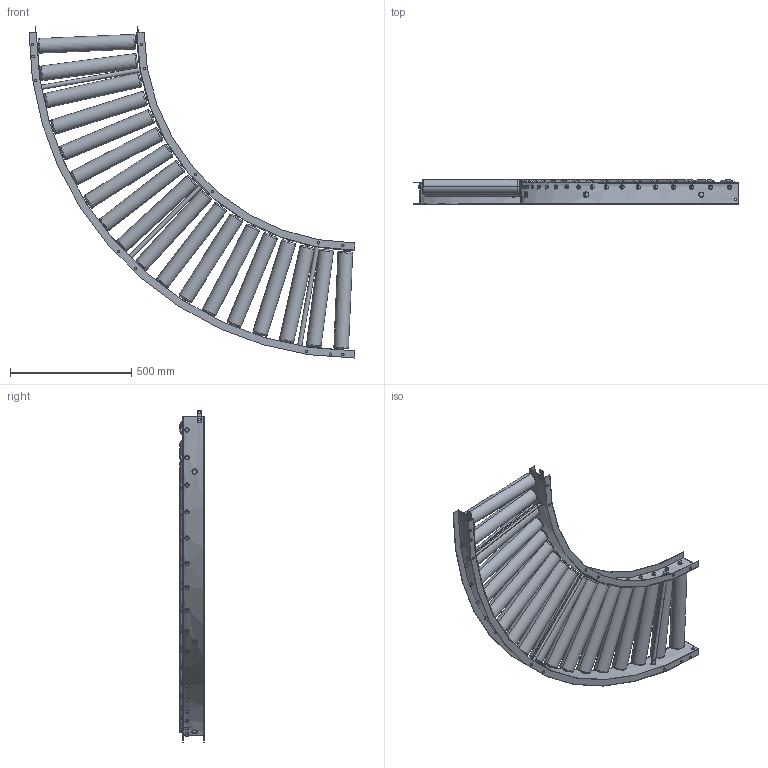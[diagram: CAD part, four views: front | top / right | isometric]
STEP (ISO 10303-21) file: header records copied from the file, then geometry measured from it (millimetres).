
FILE_DESCRIPTION (( 'STEP AP203' ), '1' );
FILE_NAME ('RS-6015J_C.step', '2024-03-15T02:38:35', ( '' ), ( '' ), 'SwSTEP 2.0', 'SolidWorks 2023', '' );
FILE_SCHEMA (( 'CONFIG_CONTROL_DESIGN' ));
Length unit declared in the file: millimetre
Products named in the file (1): RS-6015J_C
Bounding box: 1345 x 101.75 x 1370.08 mm (x, y, z)
Volume: 21957012.7 mm3; surface area: 3196760.5 mm2
Topology: 55 solids, 55 shells, 748 faces, 1680 edges, 1084 vertices
Faces by surface type: cylinder 370, plane 270, torus 72, cone 36
Entity records: 28049 total; most frequent: CARTESIAN_POINT 10917, DIRECTION 3634, ORIENTED_EDGE 3360, EDGE_CURVE 1680, AXIS2_PLACEMENT_3D 1521, VERTEX_POINT 1084, EDGE_LOOP 960, CIRCLE 772
